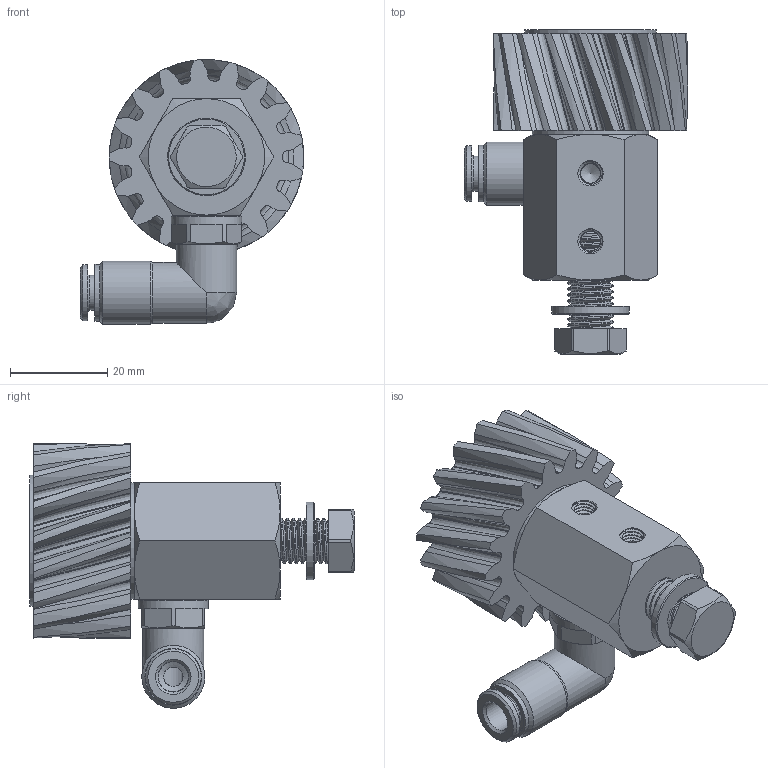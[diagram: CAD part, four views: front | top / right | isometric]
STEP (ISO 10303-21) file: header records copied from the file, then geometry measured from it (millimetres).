
FILE_DESCRIPTION (( 'STEP AP214' ), '1' );
FILE_NAME ('012_13_02_20_17BLZ.STEP', '2026-04-14T09:11:52', ( '' ), ( '' ), 'SwSTEP 2.0', 'SolidWorks 2022', '' );
FILE_SCHEMA (( 'AUTOMOTIVE_DESIGN' ));
Length unit declared in the file: millimetre
Products named in the file (13): Schraube_M8_20; RH202242; 012_06_Senkschraube; Modul_2_S_L; H202242_HDS022_6_M10X1_08.05.17(1); DR6-C_HDX_25.07.16_1; OR 7.2X1.9_1; 12012_06_00_Scheibe-CRS-VA.SLDASM; 012_13b_01_winklige_Achse_lang_M8_1; 012_13_02_20_17BLZ; 12012_06_01_Scheibe-CRS-VA_27.SLDASM; RIVOLUZIONE_0_2; U_Scheibe_8,4
Assembly tree (12 placements, depth 3):
  012_13_02_20_17BLZ
    012_13b_01_winklige_Achse_lang_M8_1
    Schraube_M8_20
    U_Scheibe_8,4
    H202242_HDS022_6_M10X1_08.05.17(1)
      OR 7.2X1.9_1
      RH202242
      DR6-C_HDX_25.07.16_1
      RIVOLUZIONE_0_2
    12012_06_00_Scheibe-CRS-VA.SLDASM
    12012_06_01_Scheibe-CRS-VA_27.SLDASM
    012_06_Senkschraube
    Modul_2_S_L
Bounding box: 46.04 x 66.9 x 54.53 mm (x, y, z)
Volume: 40705.1 mm3; surface area: 19900.5 mm2
Topology: 11 solids, 11 shells, 697 faces, 1906 edges, 1264 vertices
Faces by surface type: plane 317, bspline 252, cylinder 72, cone 53, torus 3
Full cylindrical faces by diameter (mm): 3 x1, 4 x2, 6 x1, 6.2 x1, 6.3 x1, 6.5 x1, 7.2 x1, 8.4 x1, 8.5 x1, 9 x10, 9.9 x1, 10 x3, 10.1 x2, 10.3 x1, 11.5 x1, 11.7 x1, 12.5 x2, 13 x1, 14.5 x1, 16 x1, 24 x1, 27 x1
Entity records: 70239 total; most frequent: CARTESIAN_POINT 53890, ORIENTED_EDGE 3520, DIRECTION 2252, EDGE_CURVE 1760, VERTEX_POINT 1199, VECTOR 994, LINE 994, EDGE_LOOP 811
